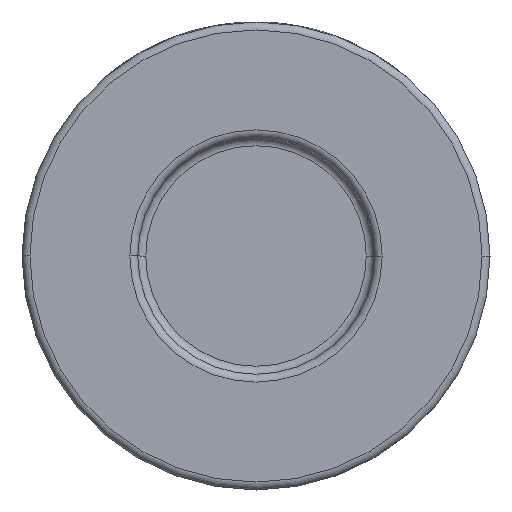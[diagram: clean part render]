
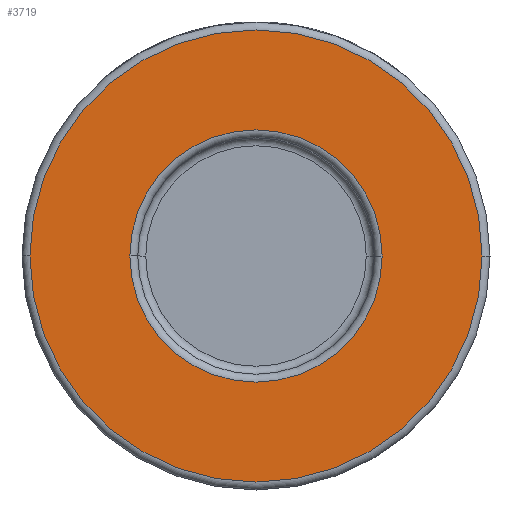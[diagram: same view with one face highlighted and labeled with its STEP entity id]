
A CAD part, front view. The second image highlights one B-rep face of the part: STEP entity #3719.
In plain terms, the highlighted planar face has unit normal (0, -1, 0).
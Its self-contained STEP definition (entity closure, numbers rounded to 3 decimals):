
#256 = DIRECTION ( 'NONE',  ( 0., -1., 0. ) ) ;
#651 = AXIS2_PLACEMENT_3D ( 'NONE', #2422, #256, #1696 ) ;
#718 = EDGE_CURVE ( 'NONE', #1494, #2466, #1192, .T. ) ;
#815 = CARTESIAN_POINT ( 'NONE',  ( 0., -27., 0. ) ) ;
#956 = AXIS2_PLACEMENT_3D ( 'NONE', #2306, #4506, #1999 ) ;
#1016 = FACE_OUTER_BOUND ( 'NONE', #1247, .T. ) ;
#1040 = PLANE ( 'NONE',  #651 ) ;
#1192 = CIRCLE ( 'NONE', #956, 15.9 ) ;
#1220 = CARTESIAN_POINT ( 'NONE',  ( 0., -27., 0. ) ) ;
#1225 = CIRCLE ( 'NONE', #3325, 28.5 ) ;
#1247 = EDGE_LOOP ( 'NONE', ( #2813, #4579 ) ) ;
#1494 = VERTEX_POINT ( 'NONE', #3711 ) ;
#1678 = CARTESIAN_POINT ( 'NONE',  ( -28.5, -27., 0. ) ) ;
#1696 = DIRECTION ( 'NONE',  ( 1., 0., 0. ) ) ;
#1999 = DIRECTION ( 'NONE',  ( 1., 0., 0. ) ) ;
#2008 = CIRCLE ( 'NONE', #4170, 28.5 ) ;
#2022 = DIRECTION ( 'NONE',  ( 0., -1., 0. ) ) ;
#2249 = DIRECTION ( 'NONE',  ( 0., -1., 0. ) ) ;
#2306 = CARTESIAN_POINT ( 'NONE',  ( 0., -27., 0. ) ) ;
#2422 = CARTESIAN_POINT ( 'NONE',  ( 29.5, -27., 0. ) ) ;
#2447 = CARTESIAN_POINT ( 'NONE',  ( 28.5, -27., 0. ) ) ;
#2453 = EDGE_LOOP ( 'NONE', ( #2869, #4224 ) ) ;
#2466 = VERTEX_POINT ( 'NONE', #4591 ) ;
#2573 = AXIS2_PLACEMENT_3D ( 'NONE', #1220, #2650, #2975 ) ;
#2650 = DIRECTION ( 'NONE',  ( 0., 1., 0. ) ) ;
#2730 = EDGE_CURVE ( 'NONE', #3230, #3808, #1225, .T. ) ;
#2813 = ORIENTED_EDGE ( 'NONE', *, *, #3158, .T. ) ;
#2869 = ORIENTED_EDGE ( 'NONE', *, *, #3157, .T. ) ;
#2975 = DIRECTION ( 'NONE',  ( 1., 0., 0. ) ) ;
#3101 = DIRECTION ( 'NONE',  ( 1., 0., 0. ) ) ;
#3157 = EDGE_CURVE ( 'NONE', #2466, #1494, #3398, .T. ) ;
#3158 = EDGE_CURVE ( 'NONE', #3808, #3230, #2008, .T. ) ;
#3230 = VERTEX_POINT ( 'NONE', #1678 ) ;
#3325 = AXIS2_PLACEMENT_3D ( 'NONE', #3906, #2022, #3101 ) ;
#3398 = CIRCLE ( 'NONE', #2573, 15.9 ) ;
#3711 = CARTESIAN_POINT ( 'NONE',  ( -15.9, -27., 0. ) ) ;
#3719 = ADVANCED_FACE ( 'NONE', ( #4251, #1016 ), #1040, .T. ) ;
#3735 = DIRECTION ( 'NONE',  ( 1., 0., 0. ) ) ;
#3808 = VERTEX_POINT ( 'NONE', #2447 ) ;
#3906 = CARTESIAN_POINT ( 'NONE',  ( 0., -27., 0. ) ) ;
#4170 = AXIS2_PLACEMENT_3D ( 'NONE', #815, #2249, #3735 ) ;
#4224 = ORIENTED_EDGE ( 'NONE', *, *, #718, .T. ) ;
#4251 = FACE_BOUND ( 'NONE', #2453, .T. ) ;
#4506 = DIRECTION ( 'NONE',  ( 0., 1., 0. ) ) ;
#4579 = ORIENTED_EDGE ( 'NONE', *, *, #2730, .T. ) ;
#4591 = CARTESIAN_POINT ( 'NONE',  ( 15.9, -27., 0. ) ) ;
